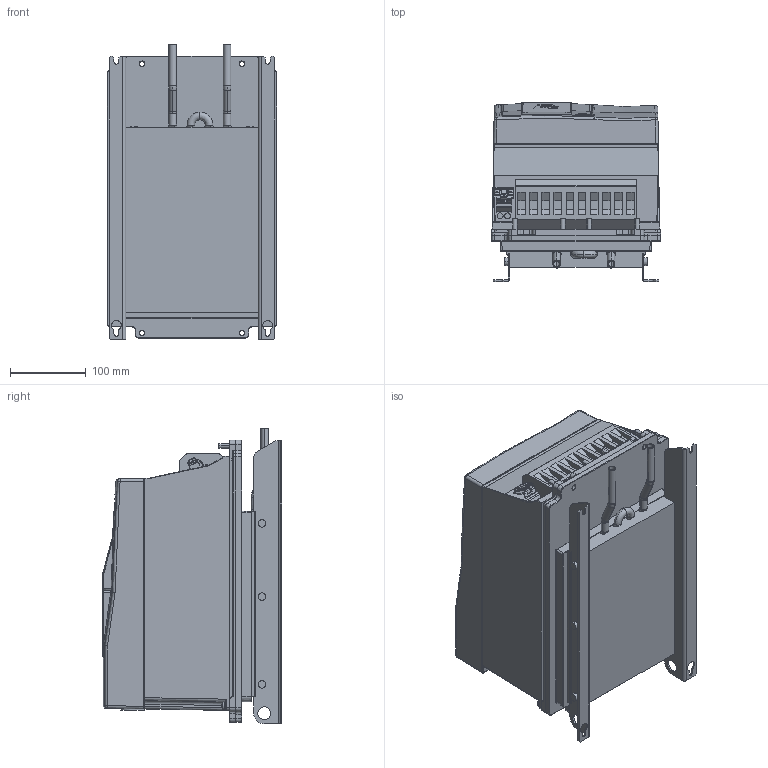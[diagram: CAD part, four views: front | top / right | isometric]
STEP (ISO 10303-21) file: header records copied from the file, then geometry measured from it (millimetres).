
FILE_DESCRIPTION (( 'STEP AP214' ), '1' );
FILE_NAME ('F6-4TW0-A030.STEP', '2020-12-09T12:06:25', ( '' ), ( '' ), 'SwSTEP 2.0', 'SolidWorks 2019', '' );
FILE_SCHEMA (( 'AUTOMOTIVE_DESIGN' ));
Length unit declared in the file: millimetre
Products named in the file (12): 10061644_000_Deckel (Kundenmodell); 10059763_000; 10035736_000_Kundenmodell; 10032600_000_Kundenmodell; 10045828_000_Basis Leistungsteil TW0 (Kundenmodell); 10059764_000_Blindabdeckung (Kundenmodell); 10061792_000; 10059765_000; 10061645_000; 10001537_000; F6-4TW0-A030; 10058448_000
Assembly tree (13 placements, depth 4):
  F6-4TW0-A030
    10045828_000_Basis Leistungsteil TW0 (Kundenmodell)
      10061792_000
    10032600_000_Kundenmodell
      10061644_000_Deckel (Kundenmodell)
        10061645_000
      10001537_000  x3
      10058448_000
    10035736_000_Kundenmodell
      10059764_000_Blindabdeckung (Kundenmodell)
        10059765_000
      10059763_000
Bounding box: 224 x 237.2 x 391.2 mm (x, y, z)
Volume: 14097716.3 mm3; surface area: 881382.2 mm2
Topology: 17 solids, 32 shells, 2807 faces, 7362 edges, 4663 vertices
Faces by surface type: plane 1224, cylinder 680, bspline 553, torus 189, cone 115, sphere 46
Entity records: 106879 total; most frequent: CARTESIAN_POINT 42345, ORIENTED_EDGE 14238, DIRECTION 11831, EDGE_CURVE 7119, VERTEX_POINT 4545, AXIS2_PLACEMENT_3D 3957, LINE 3917, VECTOR 3917
